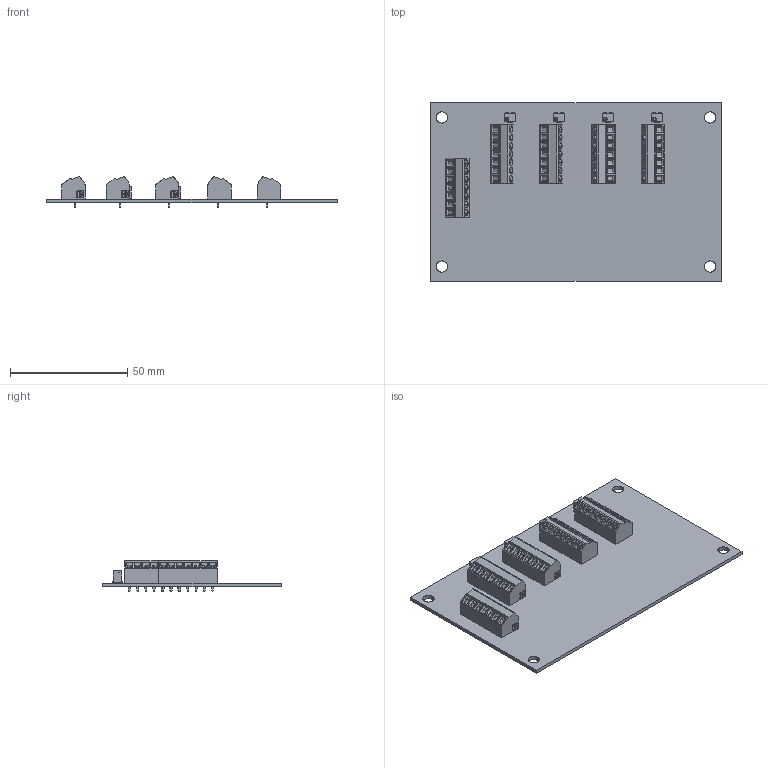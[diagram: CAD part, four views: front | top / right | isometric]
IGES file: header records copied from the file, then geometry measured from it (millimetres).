
Start section: SolidWorks IGES file using analytic representation for surfaces
Global section: file name: C:\0_Work\SolidWorks\HI 6010 Series\HI6010IT-SC2.IGS; native system: SolidWorks 2020; preprocessor: SolidWorks 2020; author: vach01; date: 210607.172011; units: inch
Bounding box: 123.83 x 76.2 x 13 mm (x, y, z)
Surface area: 27829.8 mm2 (no closed solid volume)
Topology: 0 solids, 0 shells, 2314 faces, 22306 edges, 22306 vertices
Faces by surface type: bspline 1560, revolution 754
